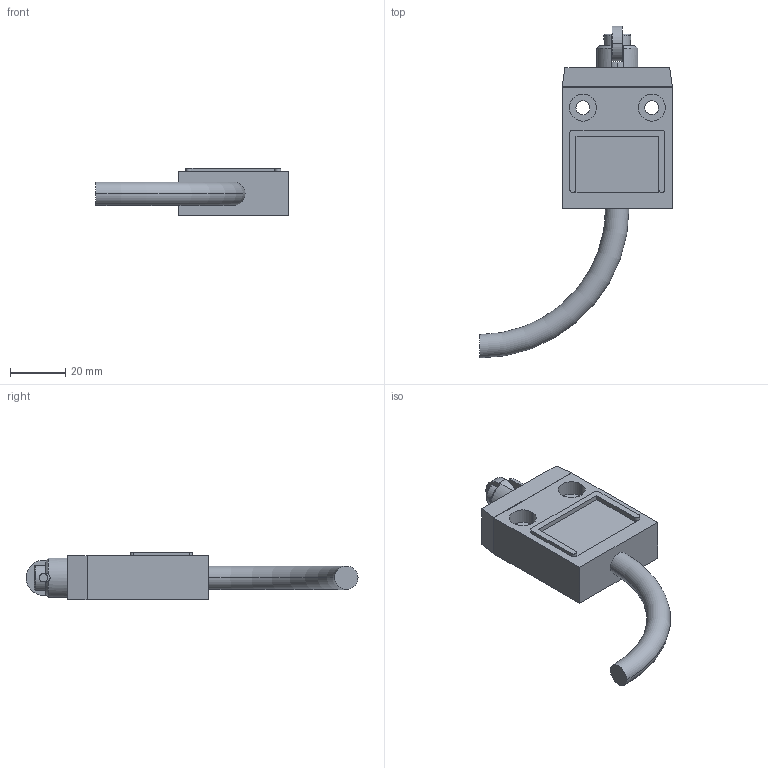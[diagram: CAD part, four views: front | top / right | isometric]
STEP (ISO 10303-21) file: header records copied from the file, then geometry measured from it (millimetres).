
FILE_DESCRIPTION (( 'STEP AP203' ), '1' );
FILE_NAME ('TZ-3103.STEP', '2019-03-27T12:53:58', ( '' ), ( '' ), 'SwSTEP 2.0', 'SolidWorks 2012', '' );
FILE_SCHEMA (( 'CONFIG_CONTROL_DESIGN' ));
Length unit declared in the file: millimetre
Products named in the file (1): TZ-3103
Bounding box: 70 x 120.5 x 17.3 mm (x, y, z)
Volume: 36851.2 mm3; surface area: 11867.6 mm2
Topology: 1 solids, 1 shells, 149 faces, 380 edges, 252 vertices
Faces by surface type: plane 93, cylinder 44, torus 8, cone 4
Entity records: 4855 total; most frequent: CARTESIAN_POINT 1126, ORIENTED_EDGE 760, DIRECTION 748, EDGE_CURVE 380, AXIS2_PLACEMENT_3D 266, VERTEX_POINT 252, VECTOR 216, LINE 216
